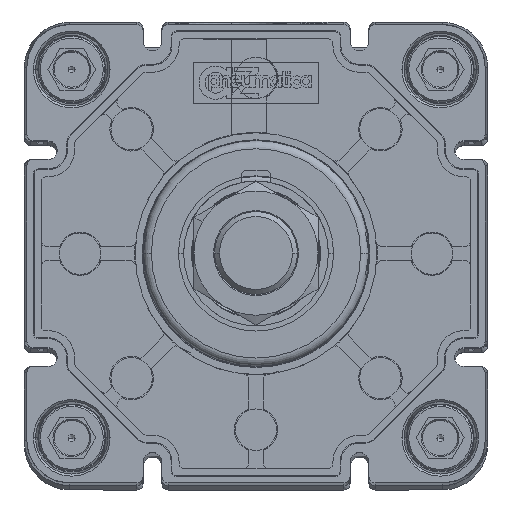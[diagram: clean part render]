
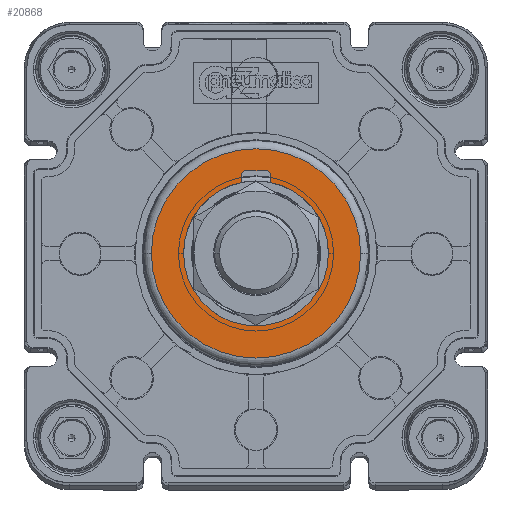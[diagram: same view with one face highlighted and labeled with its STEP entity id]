
A CAD part, top view. The second image highlights one B-rep face of the part: STEP entity #20868.
In plain terms, the highlighted planar face has unit normal (0, 0, 1) as drawn and (0, 0, -1) by its records, which use the part's own axes.
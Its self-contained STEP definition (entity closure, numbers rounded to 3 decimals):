
#1140 = VERTEX_POINT ( 'NONE', #39540 ) ;
#1226 = EDGE_CURVE ( 'NONE', #40022, #1140, #43958, .T. ) ;
#1427 = CARTESIAN_POINT ( 'NONE',  ( 3.5, 19., -72. ) ) ;
#1881 = VERTEX_POINT ( 'NONE', #44873 ) ;
#3065 = ORIENTED_EDGE ( 'NONE', *, *, #38108, .F. ) ;
#3632 = ORIENTED_EDGE ( 'NONE', *, *, #48928, .F. ) ;
#3700 = AXIS2_PLACEMENT_3D ( 'NONE', #44879, #49269, #49106 ) ;
#4716 = CIRCLE ( 'NONE', #23237, 1. ) ;
#5498 = LINE ( 'NONE', #7235, #25400 ) ;
#5506 = CARTESIAN_POINT ( 'NONE',  ( -3.5, 19., -72. ) ) ;
#6876 = DIRECTION ( 'NONE',  ( -1., 0., 0. ) ) ;
#7071 = EDGE_LOOP ( 'NONE', ( #3065, #52783, #52534, #43503, #3632, #50033, #22381, #37181 ) ) ;
#7235 = CARTESIAN_POINT ( 'NONE',  ( 2.5, 20., -72. ) ) ;
#7440 = DIRECTION ( 'NONE',  ( 0., 1., 0. ) ) ;
#7451 = EDGE_CURVE ( 'NONE', #14777, #40022, #41586, .T. ) ;
#9061 = DIRECTION ( 'NONE',  ( 0., 0., 1. ) ) ;
#9175 = VERTEX_POINT ( 'NONE', #28494 ) ;
#9394 = CARTESIAN_POINT ( 'NONE',  ( 0., 0., -72. ) ) ;
#10171 = EDGE_CURVE ( 'NONE', #48667, #9175, #44040, .T. ) ;
#10383 = DIRECTION ( 'NONE',  ( 1., 0., 0. ) ) ;
#10774 = CARTESIAN_POINT ( 'NONE',  ( 2.5, 19., -72. ) ) ;
#10944 = DIRECTION ( 'NONE',  ( 0., 0., -1. ) ) ;
#11873 = LINE ( 'NONE', #47207, #19887 ) ;
#12999 = DIRECTION ( 'NONE',  ( 1., 0., 0. ) ) ;
#14777 = VERTEX_POINT ( 'NONE', #40252 ) ;
#14983 = AXIS2_PLACEMENT_3D ( 'NONE', #31903, #35845, #10383 ) ;
#16011 = EDGE_CURVE ( 'NONE', #45425, #14777, #35822, .T. ) ;
#16174 = DIRECTION ( 'NONE',  ( -1., 0., 0. ) ) ;
#16722 = PLANE ( 'NONE',  #34036 ) ;
#17135 = EDGE_CURVE ( 'NONE', #48770, #40465, #32235, .T. ) ;
#17438 = CARTESIAN_POINT ( 'NONE',  ( 0., 0., -72. ) ) ;
#19642 = CIRCLE ( 'NONE', #39802, 25.282 ) ;
#19887 = VECTOR ( 'NONE', #26407, 1000. ) ;
#20868 = ADVANCED_FACE ( 'NONE', ( #50893, #28995 ), #16722, .T. ) ;
#22381 = ORIENTED_EDGE ( 'NONE', *, *, #54253, .F. ) ;
#22460 = ORIENTED_EDGE ( 'NONE', *, *, #44580, .T. ) ;
#23237 = AXIS2_PLACEMENT_3D ( 'NONE', #10774, #36787, #6876 ) ;
#24309 = EDGE_CURVE ( 'NONE', #1881, #37260, #4716, .T. ) ;
#24514 = CARTESIAN_POINT ( 'NONE',  ( 0., 0., -72. ) ) ;
#25400 = VECTOR ( 'NONE', #36398, 1000. ) ;
#26407 = DIRECTION ( 'NONE',  ( 0., -1., 0. ) ) ;
#28186 = DIRECTION ( 'NONE',  ( -1., 0., 0. ) ) ;
#28494 = CARTESIAN_POINT ( 'NONE',  ( -2.5, 20., -72. ) ) ;
#28995 = FACE_BOUND ( 'NONE', #7071, .T. ) ;
#31130 = CARTESIAN_POINT ( 'NONE',  ( 25.282, 0., -72. ) ) ;
#31903 = CARTESIAN_POINT ( 'NONE',  ( 0., 0., -72. ) ) ;
#32235 = CIRCLE ( 'NONE', #52970, 25.282 ) ;
#33770 = AXIS2_PLACEMENT_3D ( 'NONE', #48695, #35575, #44300 ) ;
#34036 = AXIS2_PLACEMENT_3D ( 'NONE', #24514, #50316, #16174 ) ;
#35575 = DIRECTION ( 'NONE',  ( 0., 0., 1. ) ) ;
#35822 = CIRCLE ( 'NONE', #33770, 17.5 ) ;
#35845 = DIRECTION ( 'NONE',  ( 0., 0., 1. ) ) ;
#35903 = AXIS2_PLACEMENT_3D ( 'NONE', #17438, #9061, #12999 ) ;
#36398 = DIRECTION ( 'NONE',  ( 1., 0., 0. ) ) ;
#36723 = LINE ( 'NONE', #37710, #40021 ) ;
#36787 = DIRECTION ( 'NONE',  ( 0., 0., -1. ) ) ;
#37181 = ORIENTED_EDGE ( 'NONE', *, *, #10171, .F. ) ;
#37260 = VERTEX_POINT ( 'NONE', #1427 ) ;
#37710 = CARTESIAN_POINT ( 'NONE',  ( -3.5, 19., -72. ) ) ;
#38108 = EDGE_CURVE ( 'NONE', #45425, #48667, #36723, .T. ) ;
#39540 = CARTESIAN_POINT ( 'NONE',  ( 3.5, 17.146, -72. ) ) ;
#39802 = AXIS2_PLACEMENT_3D ( 'NONE', #53400, #10944, #28186 ) ;
#40021 = VECTOR ( 'NONE', #7440, 1000. ) ;
#40022 = VERTEX_POINT ( 'NONE', #50856 ) ;
#40252 = CARTESIAN_POINT ( 'NONE',  ( -17.5, 0., -72. ) ) ;
#40359 = ORIENTED_EDGE ( 'NONE', *, *, #17135, .T. ) ;
#40465 = VERTEX_POINT ( 'NONE', #41717 ) ;
#41586 = CIRCLE ( 'NONE', #35903, 17.5 ) ;
#41717 = CARTESIAN_POINT ( 'NONE',  ( -25.282, 0., -72. ) ) ;
#43503 = ORIENTED_EDGE ( 'NONE', *, *, #1226, .T. ) ;
#43603 = DIRECTION ( 'NONE',  ( 0., 0., -1. ) ) ;
#43958 = CIRCLE ( 'NONE', #14983, 17.5 ) ;
#44040 = CIRCLE ( 'NONE', #3700, 1. ) ;
#44300 = DIRECTION ( 'NONE',  ( 1., 0., 0. ) ) ;
#44580 = EDGE_CURVE ( 'NONE', #40465, #48770, #19642, .T. ) ;
#44873 = CARTESIAN_POINT ( 'NONE',  ( 2.5, 20., -72. ) ) ;
#44879 = CARTESIAN_POINT ( 'NONE',  ( -2.5, 19., -72. ) ) ;
#45425 = VERTEX_POINT ( 'NONE', #47791 ) ;
#47207 = CARTESIAN_POINT ( 'NONE',  ( 3.5, 19., -72. ) ) ;
#47791 = CARTESIAN_POINT ( 'NONE',  ( -3.5, 17.146, -72. ) ) ;
#48667 = VERTEX_POINT ( 'NONE', #5506 ) ;
#48695 = CARTESIAN_POINT ( 'NONE',  ( 0., 0., -72. ) ) ;
#48770 = VERTEX_POINT ( 'NONE', #31130 ) ;
#48928 = EDGE_CURVE ( 'NONE', #37260, #1140, #11873, .T. ) ;
#49106 = DIRECTION ( 'NONE',  ( 1., 0., 0. ) ) ;
#49269 = DIRECTION ( 'NONE',  ( 0., 0., -1. ) ) ;
#49906 = EDGE_LOOP ( 'NONE', ( #22460, #40359 ) ) ;
#50033 = ORIENTED_EDGE ( 'NONE', *, *, #24309, .F. ) ;
#50316 = DIRECTION ( 'NONE',  ( 0., 0., -1. ) ) ;
#50856 = CARTESIAN_POINT ( 'NONE',  ( 17.5, 0., -72. ) ) ;
#50893 = FACE_OUTER_BOUND ( 'NONE', #49906, .T. ) ;
#51731 = DIRECTION ( 'NONE',  ( -1., 0., 0. ) ) ;
#52534 = ORIENTED_EDGE ( 'NONE', *, *, #7451, .T. ) ;
#52783 = ORIENTED_EDGE ( 'NONE', *, *, #16011, .T. ) ;
#52970 = AXIS2_PLACEMENT_3D ( 'NONE', #9394, #43603, #51731 ) ;
#53400 = CARTESIAN_POINT ( 'NONE',  ( 0., 0., -72. ) ) ;
#54253 = EDGE_CURVE ( 'NONE', #9175, #1881, #5498, .T. ) ;
